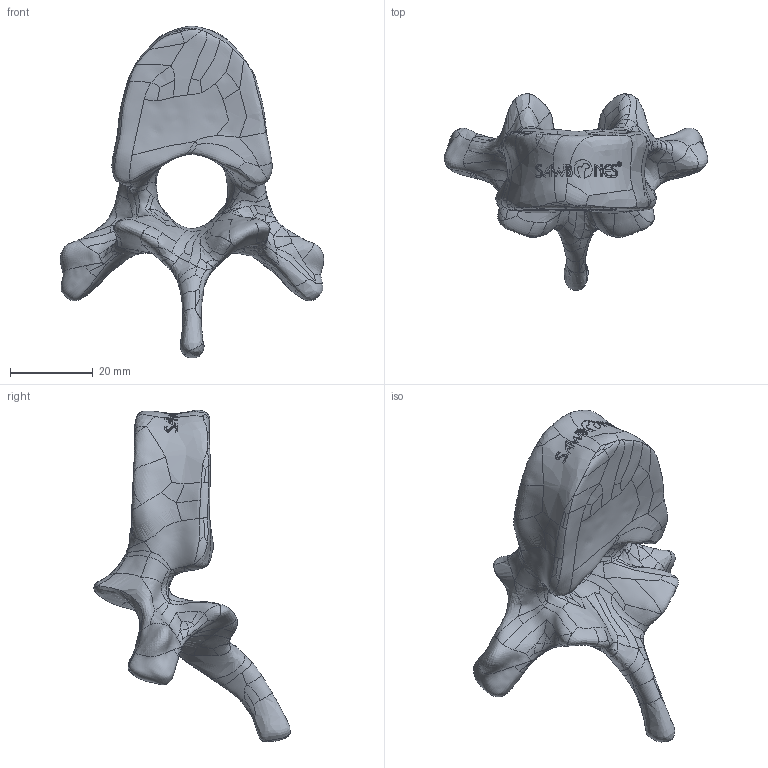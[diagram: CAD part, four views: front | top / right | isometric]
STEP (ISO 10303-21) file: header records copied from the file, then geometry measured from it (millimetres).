
FILE_DESCRIPTION (( 'STEP AP203' ), '1' );
FILE_NAME ('1379-60-9.STEP', '2026-07-28T19:25:55', ( '' ), ( '' ), 'SwSTEP 2.0', 'SolidWorks 2024', '' );
FILE_SCHEMA (( 'CONFIG_CONTROL_DESIGN' ));
Products named in the file (1): 1379-60-9
Bounding box: 63.56 x 47.37 x 80.01 mm (x, y, z)
Volume: 29016.7 mm3; surface area: 8977.1 mm2
Topology: 1 solids, 1 shells, 543 faces, 1428 edges, 897 vertices
Faces by surface type: bspline 540, plane 3
Entity records: 1069588 total; most frequent: CARTESIAN_POINT 1060690, ORIENTED_EDGE 2856, EDGE_CURVE 1428, B_SPLINE_CURVE_WITH_KNOTS 1428, VERTEX_POINT 897, EDGE_LOOP 555, FACE_OUTER_BOUND 543, ADVANCED_FACE 543
